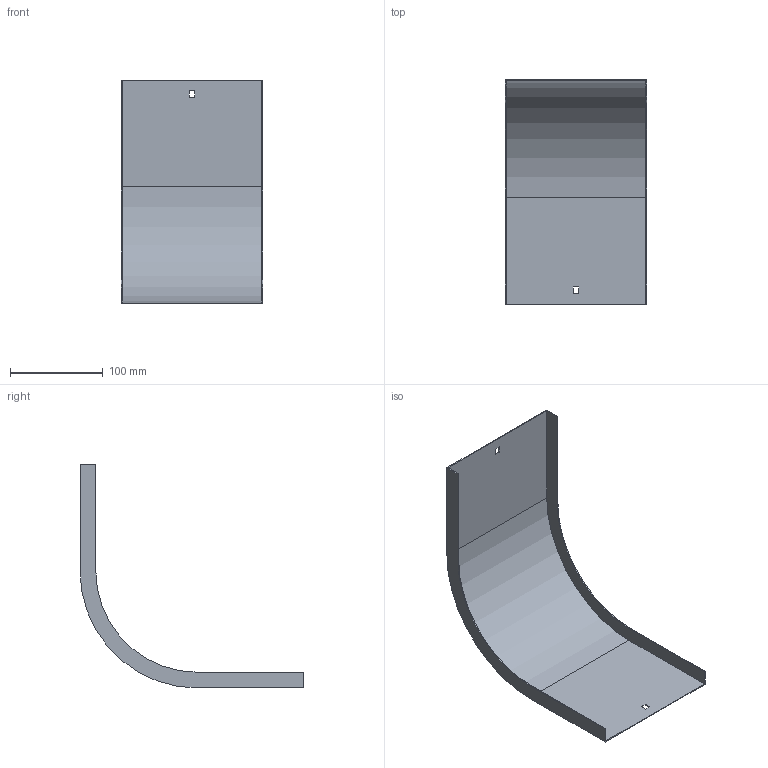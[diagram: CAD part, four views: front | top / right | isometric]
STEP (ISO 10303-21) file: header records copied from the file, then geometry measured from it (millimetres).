
FILE_DESCRIPTION (( 'STEP AP214' ), '1' );
FILE_NAME ('OD9_157.step', '2025-07-16T09:12:57', ( '' ), ( '' ), 'SwSTEP 2.0', 'SolidWorks 2023', '' );
FILE_SCHEMA (( 'AUTOMOTIVE_DESIGN' ));
Length unit declared in the file: millimetre
Products named in the file (1): OD9_157
Bounding box: 152 x 241 x 241 mm (x, y, z)
Volume: 78081.6 mm3; surface area: 157387.1 mm2
Topology: 1 solids, 1 shells, 26 faces, 72 edges, 48 vertices
Faces by surface type: plane 22, cylinder 4
Entity records: 855 total; most frequent: CARTESIAN_POINT 147, ORIENTED_EDGE 144, DIRECTION 134, EDGE_CURVE 72, LINE 64, VECTOR 64, VERTEX_POINT 48, AXIS2_PLACEMENT_3D 35
